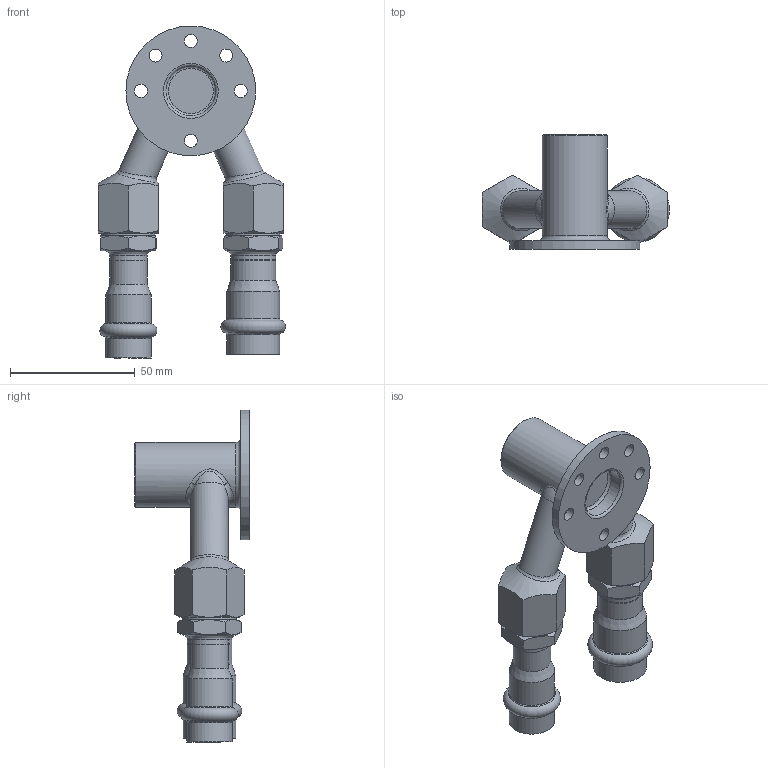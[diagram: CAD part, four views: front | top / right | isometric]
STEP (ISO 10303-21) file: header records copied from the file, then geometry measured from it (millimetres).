
FILE_DESCRIPTION((''),'2;1');
FILE_NAME('G:\Nirosan-Schmiedefeld\Technics\CAD\001 Serie 9.000\69478GZ\69478GZ181215H(1).stp','2019-01-02T12:40:28',('herberg'),(''),'Autodesk Inventor 2009','Autodesk Inventor 2009','');
FILE_SCHEMA(('AUTOMOTIVE_DESIGN { 1 0 10303 214 1 1 1 1 }'));
Length unit declared in the file: millimetre
Products named in the file (8): 69478GZ181215H(1); 69478igz12h(0); 69243G1812H(2); 69HM18P(1); AG1812(1); 69243G1512H(3); 69HM15P(0); AG1512(1)
Assembly tree (7 placements, depth 3):
  69478GZ181215H(1)
    69478igz12h(0)
    69243G1812H(2)
      69HM18P(1)
      AG1812(1)
    69243G1512H(3)
      69HM15P(0)
      AG1512(1)
Bounding box: 74.94 x 46 x 133 mm (x, y, z)
Volume: 49128.8 mm3; surface area: 37781.5 mm2
Topology: 5 solids, 5 shells, 159 faces, 364 edges, 221 vertices
Faces by surface type: cone 52, plane 42, bspline 33, cylinder 22, torus 10
Full cylindrical faces by diameter (mm): 11 x2, 12 x1, 15 x5, 15.15 x2, 18 x2, 18.15 x4, 18.631 x1, 20 x1, 21.15 x2, 26 x1, 52 x1
Entity records: 7356 total; most frequent: CARTESIAN_POINT 4285, DIRECTION 568, ORIENTED_EDGE 546, EDGE_CURVE 273, AXIS2_PLACEMENT_3D 272, EDGE_LOOP 260, VERTEX_POINT 201, FACE_OUTER_BOUND 159
